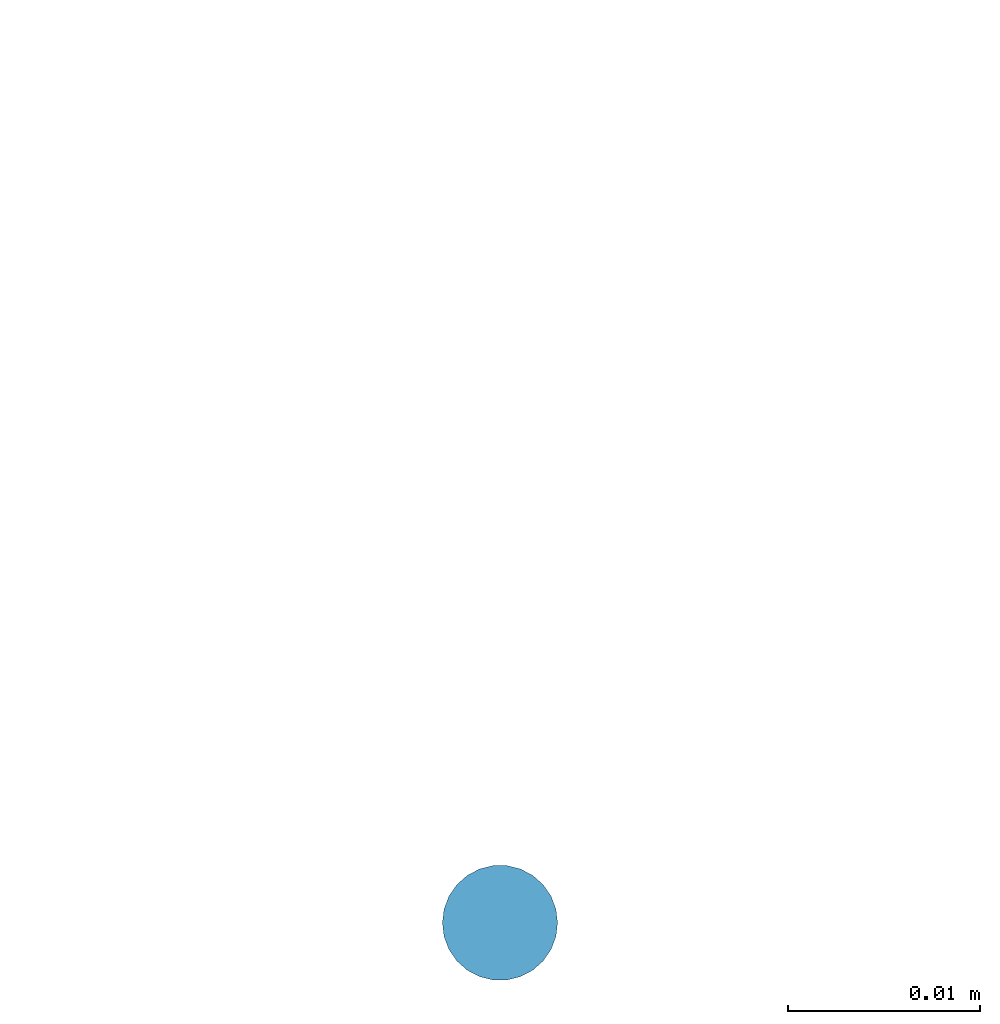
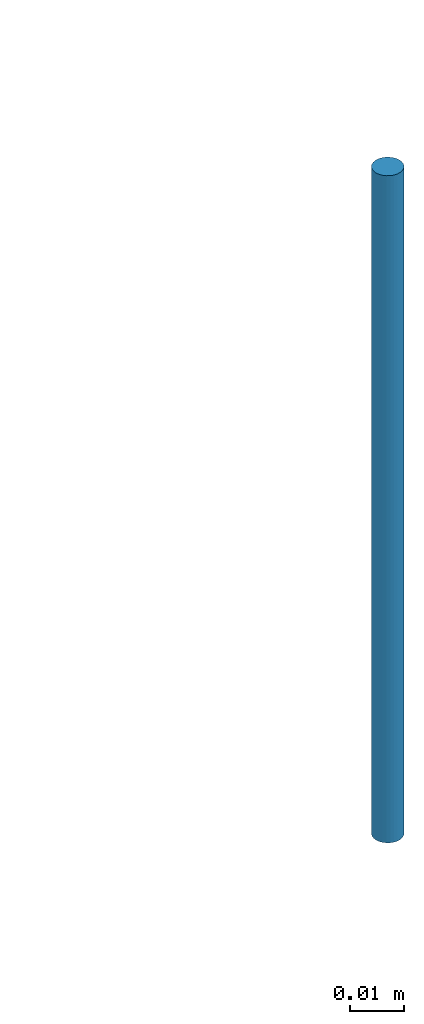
# One storey, part 6 of 6: 1 reinforcing bar.
"""IFC2X3 building model written with IfcOpenShell, lengths in centimetres."""

from ifc_helpers import new_model, entity, si_unit, converted_unit, derived_unit, direction, frame, origin, place, context, subcontext, project, spatial, element, save


model = new_model("IFC2X3")

# Units and contexts
model_context = context("Model", 3, precision=0.001, world=origin(), true_north=direction((6.12303176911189e-17, 1.0)))
body_context = subcontext(model_context, "Body", "Model", "MODEL_VIEW")
ifc_project = project(units=[si_unit("LENGTHUNIT", "METRE", prefix="CENTI"), si_unit("AREAUNIT", "SQUARE_METRE"), si_unit("VOLUMEUNIT", "CUBIC_METRE"), converted_unit("PLANEANGLEUNIT", "DEGREE", entity("IfcRatioMeasure", 0.0174532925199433), si_unit("PLANEANGLEUNIT", "RADIAN"), dimensions=[0, 0, 0, 0, 0, 0, 0]), si_unit("MASSUNIT", "GRAM", prefix="KILO"), si_unit("TIMEUNIT", "SECOND"), si_unit("FREQUENCYUNIT", "HERTZ"), si_unit("THERMODYNAMICTEMPERATUREUNIT", "DEGREE_CELSIUS"), derived_unit("THERMALTRANSMITTANCEUNIT", [(si_unit("MASSUNIT", "GRAM", prefix="KILO"), 1), (si_unit("THERMODYNAMICTEMPERATUREUNIT", "KELVIN"), -1), (si_unit("TIMEUNIT", "SECOND"), -3)]), derived_unit("VOLUMETRICFLOWRATEUNIT", [(si_unit("LENGTHUNIT", "METRE"), 3), (si_unit("TIMEUNIT", "SECOND"), -1)]), si_unit("ELECTRICCURRENTUNIT", "AMPERE"), si_unit("ELECTRICVOLTAGEUNIT", "VOLT"), si_unit("POWERUNIT", "WATT"), si_unit("FORCEUNIT", "NEWTON"), si_unit("ILLUMINANCEUNIT", "LUX"), si_unit("LUMINOUSFLUXUNIT", "LUMEN"), si_unit("LUMINOUSINTENSITYUNIT", "CANDELA"), derived_unit("USERDEFINED", [(si_unit("MASSUNIT", "GRAM", prefix="KILO"), -1), (si_unit("LENGTHUNIT", "METRE"), -2), (si_unit("TIMEUNIT", "SECOND"), 3), (si_unit("LUMINOUSFLUXUNIT", "LUMEN"), 1)]), derived_unit("LINEARVELOCITYUNIT", [(si_unit("LENGTHUNIT", "METRE"), 1), (si_unit("TIMEUNIT", "SECOND"), -1)]), si_unit("PRESSUREUNIT", "PASCAL"), derived_unit("USERDEFINED", [(si_unit("LENGTHUNIT", "METRE"), -2), (si_unit("MASSUNIT", "GRAM", prefix="KILO"), 1), (si_unit("TIMEUNIT", "SECOND"), -2)])], contexts=[model_context])

# Site, building, storey
site_placement = place(None, origin())
site = spatial("IfcSite", under=ifc_project, at=site_placement, Name="Default", CompositionType="ELEMENT")
building_placement = place(site_placement, origin())
building = spatial("IfcBuilding", under=site, at=building_placement, CompositionType="ELEMENT")
storey_placement = place(building_placement, frame((0.0, 0.0, 544.0)))
storey = spatial("IfcBuildingStorey", under=building, at=storey_placement, Name="R+2", CompositionType="ELEMENT", Elevation=544.0)

# Reinforcing bar
reinforcing_bar_placement = place(storey_placement, origin())
element("IfcReinforcingBar", 1, at=reinforcing_bar_placement, inside=storey, Name="Barre d'armature:HA6 (Fe400) : Forme 00: 1", ObjectType="Barre d'armature:HA6 (Fe400)", BarLength=15.0, BarRole="NOTDEFINED", CrossSectionArea=2.82743338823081e-05, NominalDiameter=0.6, context=body_context, shape_type="AdvancedSweptSolid", body=[
    entity("IfcSweptDiskSolid", entity("IfcCompositeCurve", [entity("IfcCompositeCurveSegment", "CONTINUOUS", True, entity("IfcPolyline", [entity("IfcCartesianPoint", [879.185889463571, 23210.5753424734, 252.5]), entity("IfcCartesianPoint", [879.185889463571, 23210.5753424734, 267.5])]))], False), 0.3, None, 0.0, 1.0),
])

save(model, "model.ifc")
